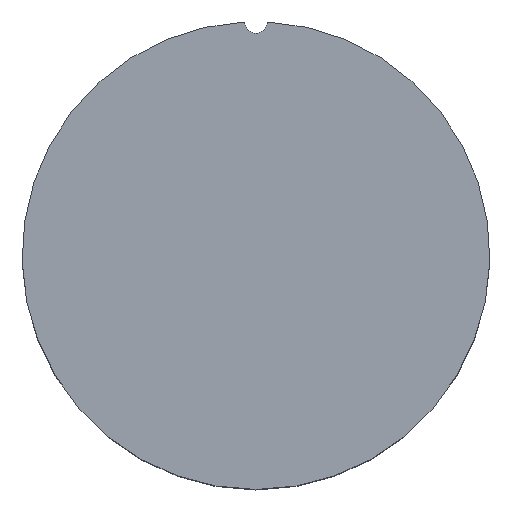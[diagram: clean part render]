
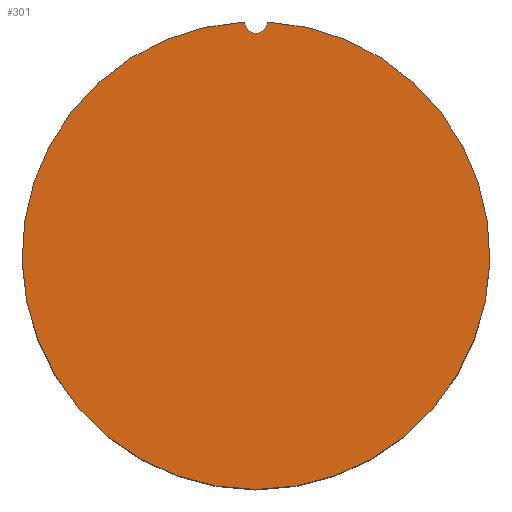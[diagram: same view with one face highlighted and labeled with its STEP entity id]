
A CAD part, top view. The second image highlights one B-rep face of the part: STEP entity #301.
In plain terms, the highlighted planar face has unit normal (0, 0, 1).
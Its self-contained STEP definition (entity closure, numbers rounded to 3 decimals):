
#31=PLANE('',#354);
#78=FACE_OUTER_BOUND('',#126,.T.);
#126=EDGE_LOOP('',(#258,#259));
#134=CIRCLE('',#318,1.25);
#153=CIRCLE('',#355,25.5);
#160=VERTEX_POINT('',#485);
#162=VERTEX_POINT('',#488);
#187=EDGE_CURVE('',#162,#160,#134,.T.);
#207=EDGE_CURVE('',#160,#162,#153,.T.);
#258=ORIENTED_EDGE('',*,*,#187,.T.);
#259=ORIENTED_EDGE('',*,*,#207,.T.);
#301=ADVANCED_FACE('',(#78),#31,.T.);
#318=AXIS2_PLACEMENT_3D('',#489,#386,#387);
#354=AXIS2_PLACEMENT_3D('',#543,#459,#460);
#355=AXIS2_PLACEMENT_3D('',#544,#461,#462);
#386=DIRECTION('center_axis',(0.,0.,-1.));
#387=DIRECTION('ref_axis',(1.,0.,0.));
#459=DIRECTION('center_axis',(0.,0.,1.));
#460=DIRECTION('ref_axis',(1.,0.,0.));
#461=DIRECTION('center_axis',(0.,0.,1.));
#462=DIRECTION('ref_axis',(-1.,0.,0.));
#485=CARTESIAN_POINT('',(-1.25,25.469,32.));
#488=CARTESIAN_POINT('',(1.25,25.469,32.));
#489=CARTESIAN_POINT('Origin',(0.,25.5,32.));
#543=CARTESIAN_POINT('Origin',(0.,0.,32.));
#544=CARTESIAN_POINT('Origin',(0.,0.,32.));
